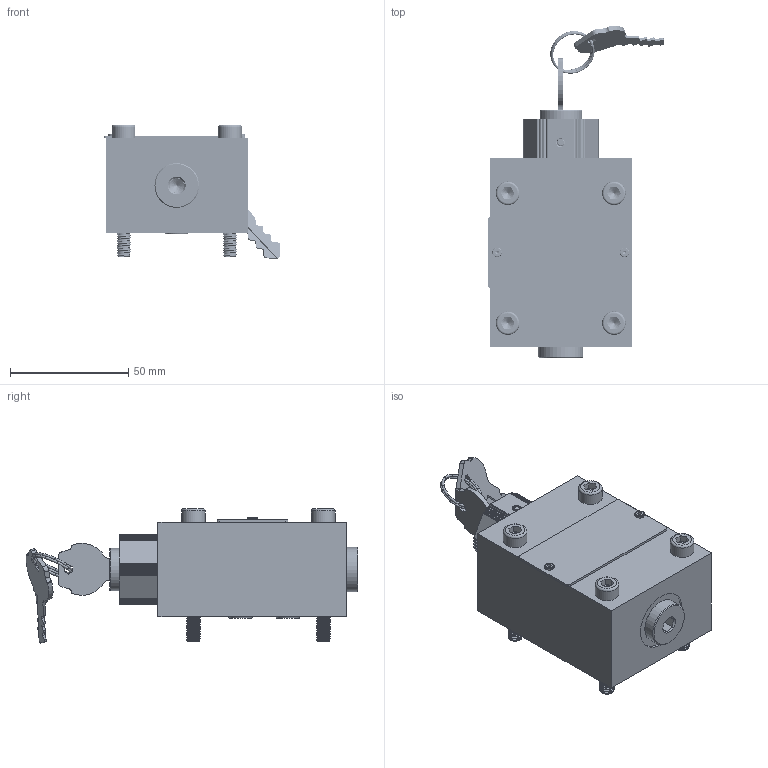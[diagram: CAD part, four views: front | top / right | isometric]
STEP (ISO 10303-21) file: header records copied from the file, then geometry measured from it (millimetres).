
FILE_DESCRIPTION(/* description */ (''),/* implementation_level */ '2;1');
FILE_NAME(/* name */ 'DBDA6P-1XJ.stp',/* time_stamp */ '2024-09-24T17:47:27+08:00',/* author */ (''),/* organization */ (''),/* preprocessor_version */ 'ST-DEVELOPER v16.7',/* originating_system */ 'SIEMENS PLM Software NX 12.0',/* authorisation */ '');
FILE_SCHEMA (('AUTOMOTIVE_DESIGN { 1 0 10303 214 3 1 1 1 }'));
Products named in the file (1): DBDA6P-1XJ
Bounding box: 74.69 x 140.59 x 56.9 mm (x, y, z)
Volume: 53907.5 mm3; surface area: 76550.3 mm2
Topology: 37 solids, 38 shells, 920 faces, 2286 edges, 1456 vertices
Faces by surface type: cylinder 392, plane 369, bspline 54, cone 52, torus 42, extrusion 8, sphere 3
Full cylindrical faces by diameter (mm): 1.5 x2, 1.8 x2, 1.9 x2, 2 x14, 3 x7, 4 x6, 4.5 x2, 5.4 x1, 6 x100, 6.5 x4, 8.5 x2, 8.9 x1, 9 x1, 10 x6, 11.093 x1, 11.1 x1, 12 x3, 12.1 x1, 12.5 x1, 13 x1, 15 x1, 16 x2, 16.1 x1, 16.2 x2, 16.5 x1, 18 x4, 18.9 x1, 19 x5, 19.1 x1, 20 x1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
Entity records: 87148 total; most frequent: CARTESIAN_POINT 69119, DIRECTION 3566, ORIENTED_EDGE 3398, EDGE_CURVE 1699, AXIS2_PLACEMENT_3D 1415, VERTEX_POINT 1199, EDGE_LOOP 1140, ADVANCED_FACE 819
